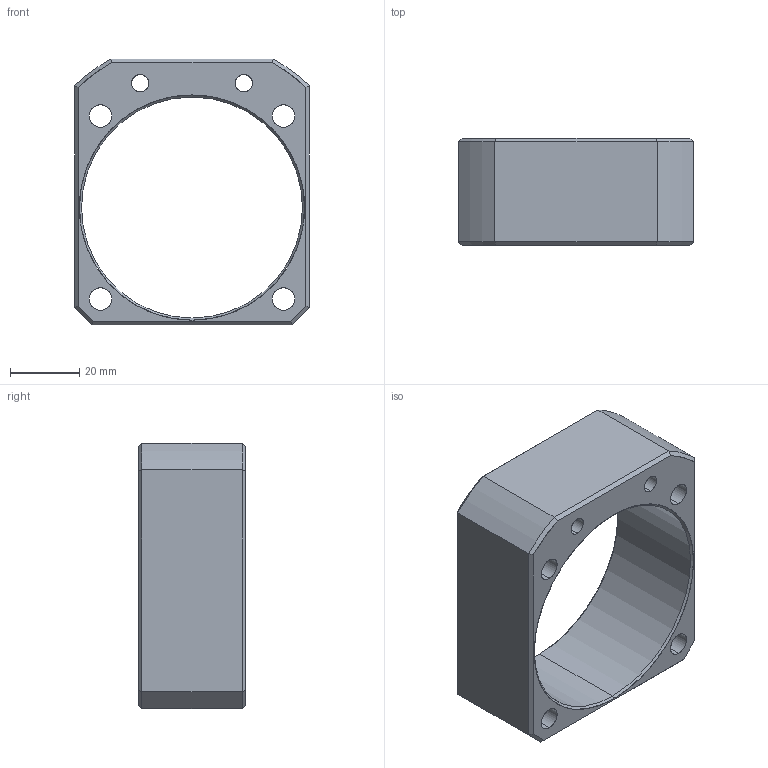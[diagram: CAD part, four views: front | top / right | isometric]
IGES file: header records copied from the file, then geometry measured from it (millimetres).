
Start section: SolidWorks IGES file using analytic representation for surfaces
Global section: file name: L:\電子カタログ-3D_STEP\WHZ0500-MD.igs; native system: SolidWorks 2009; preprocessor: SolidWorks 2009; author: D211; date: 100422.003344; units: millimetre
Bounding box: 68 x 31 x 77 mm (x, y, z)
Surface area: 21294.4 mm2 (no closed solid volume)
Topology: 0 solids, 0 shells, 58 faces, 876 edges, 876 vertices
Faces by surface type: revolution 36, bspline 22
